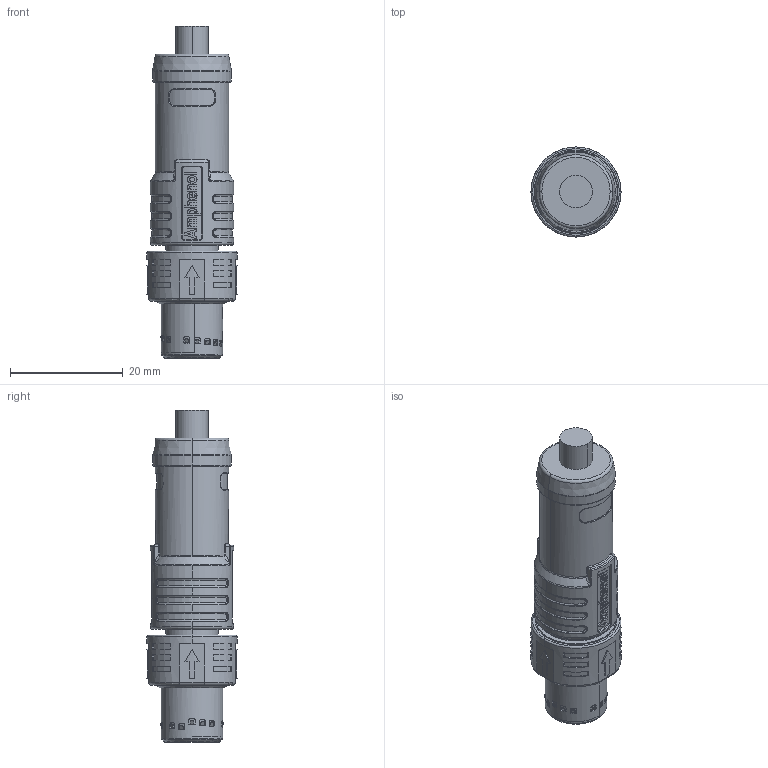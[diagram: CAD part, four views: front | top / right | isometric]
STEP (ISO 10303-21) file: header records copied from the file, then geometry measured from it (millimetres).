
FILE_DESCRIPTION((''),'2;1');
FILE_NAME('MSAS-08BMMM-PL8BXX_SW0001','2022-10-04T',('L180019'),(''),'PRO/ENGINEER BY PARAMETRIC TECHNOLOGY CORPORATION, 2017170','PRO/ENGINEER BY PARAMETRIC TECHNOLOGY CORPORATION, 2017170','');
FILE_SCHEMA(('CONFIG_CONTROL_DESIGN'));
Products named in the file (1): MSAS-08BMMM-PL8BXX_SW0001
Bounding box: 16 x 16 x 59 mm (x, y, z)
Volume: 7453.7 mm3; surface area: 3809.4 mm2
Topology: 1 solids, 6 shells, 1077 faces, 2772 edges, 1779 vertices
Faces by surface type: plane 412, cylinder 351, bspline 114, cone 88, torus 68, extrusion 40, sphere 4
Entity records: 46422 total; most frequent: CARTESIAN_POINT 21175, ORIENTED_EDGE 5544, DIRECTION 4834, EDGE_CURVE 2772, AXIS2_PLACEMENT_3D 1820, VERTEX_POINT 1779, VECTOR 1194, EDGE_LOOP 1177
